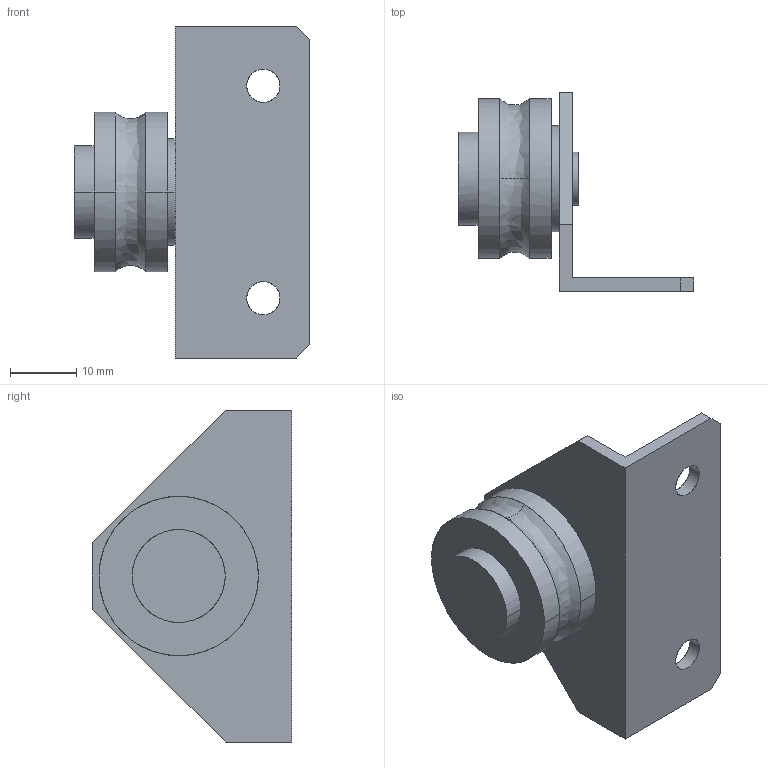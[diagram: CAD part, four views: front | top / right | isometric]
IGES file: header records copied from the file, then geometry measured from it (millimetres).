
Global section: file name: No Iges File Name specified; native system: AutoDesk Inventor R11.0; preprocessor: AutoDesk Inventor Iges Exporter R11.0; author: No Author specified; organization: No Organization specified; date: 20190511.110054; units: millimetre
Bounding box: 35.5 x 30 x 50 mm (x, y, z)
Surface area: 6321.8 mm2 (no closed solid volume)
Topology: 0 solids, 0 shells, 35 faces, 228 edges, 228 vertices
Faces by surface type: bspline 35
